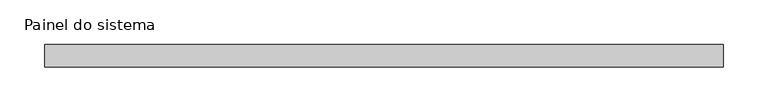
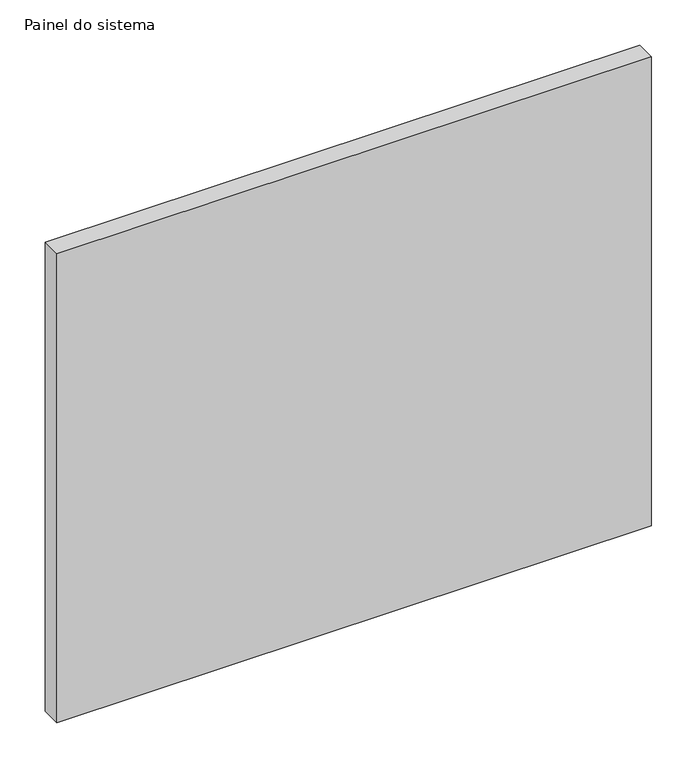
"""IFC4 building model written with IfcOpenShell, lengths in millimetres: plate geometry, Painel do sistema : Envidraçado."""

from ifc_helpers import new_model, si_unit, origin, origin_with_axes, place, context, project, spatial, polyline, outline, extrude, source, transform, mapped, element, save


def painel_do_sistema_bde70970(model_context):
    return source(origin(), model_context, "Body", "SweptSolid", [
        extrude(outline(polyline([(377.5, 24.5), (-377.5, 24.5), (-377.5, 49.5), (377.5, 49.5), (377.5, 24.5)])), origin_with_axes(), (0.0, 0.0, 1.0), 630.0),
    ])


if __name__ == "__main__":
    model = new_model("IFC4")
    model_context = context("Model", 3, world=origin())
    ifc_project = project(units=[si_unit("LENGTHUNIT", "METRE", prefix="MILLI")], contexts=[model_context])
    site = spatial("IfcSite", under=ifc_project)
    building = spatial("IfcBuilding", under=site)
    placement = place(None, origin())
    painel_do_sistema_shape = painel_do_sistema_bde70970(model_context)
    element("IfcPlate", 1, ObjectType="Painel do sistema : Envidraçado", at=placement, inside=building, context=model_context, shape_type="MappedRepresentation", body=[
        mapped(painel_do_sistema_shape, transform((0.0, 0.0, 0.0), x_axis=(1.0, 0.0, 0.0), y_axis=(0.0, 1.0, 0.0), z_axis=(0.0, 0.0, 1.0))),
    ])
    save(model, "model.ifc")
